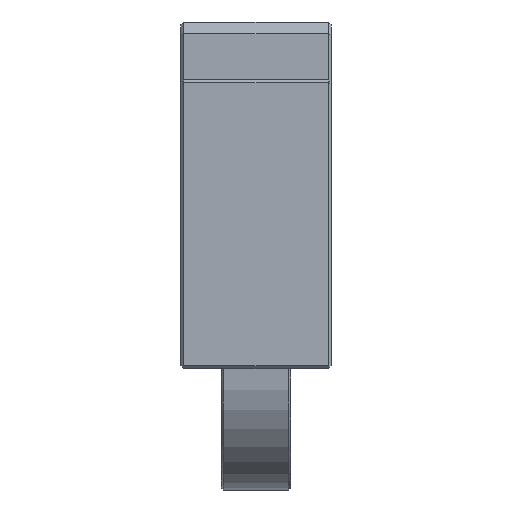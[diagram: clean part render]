
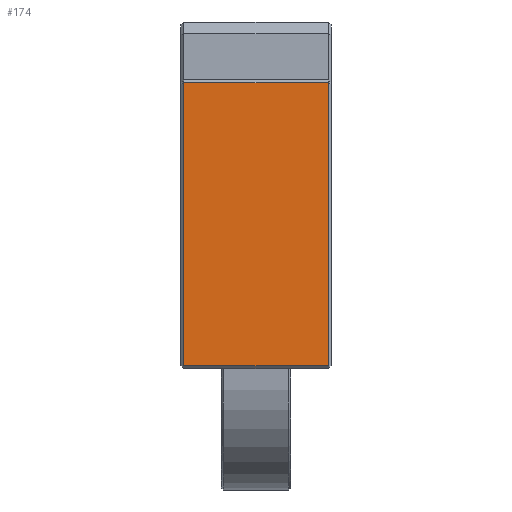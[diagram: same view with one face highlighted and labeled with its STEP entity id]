
A CAD part, left-side view. The second image highlights one B-rep face of the part: STEP entity #174.
In plain terms, the highlighted planar face has unit normal (-1, 0, 0).
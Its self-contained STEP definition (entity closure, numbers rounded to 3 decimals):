
#174 = ADVANCED_FACE( '', ( #584 ), #585, .T. );
#584 = FACE_OUTER_BOUND( '', #1453, .T. );
#585 = PLANE( '', #1454 );
#1453 = EDGE_LOOP( '', ( #2468, #2469, #2470, #2471 ) );
#1454 = AXIS2_PLACEMENT_3D( '', #2472, #2473, #2474 );
#2468 = ORIENTED_EDGE( '', *, *, #5726, .T. );
#2469 = ORIENTED_EDGE( '', *, *, #5727, .T. );
#2470 = ORIENTED_EDGE( '', *, *, #5728, .T. );
#2471 = ORIENTED_EDGE( '', *, *, #5729, .T. );
#2472 = CARTESIAN_POINT( '', ( -44., -13., 0. ) );
#2473 = DIRECTION( '', ( -1., 0., 0. ) );
#2474 = DIRECTION( '', ( 0., 0., 1. ) );
#5726 = EDGE_CURVE( '', #6922, #6923, #6924, .T. );
#5727 = EDGE_CURVE( '', #6923, #6925, #6926, .T. );
#5728 = EDGE_CURVE( '', #6925, #6927, #6928, .T. );
#5729 = EDGE_CURVE( '', #6927, #6922, #6929, .T. );
#6922 = VERTEX_POINT( '', #8743 );
#6923 = VERTEX_POINT( '', #8744 );
#6924 = LINE( '', #8745, #8746 );
#6925 = VERTEX_POINT( '', #8747 );
#6926 = LINE( '', #8748, #8749 );
#6927 = VERTEX_POINT( '', #8750 );
#6928 = LINE( '', #8751, #8752 );
#6929 = LINE( '', #8753, #8754 );
#8743 = CARTESIAN_POINT( '', ( -44., 12.5, 49.5 ) );
#8744 = CARTESIAN_POINT( '', ( -44., 12.5, 0.5 ) );
#8745 = CARTESIAN_POINT( '', ( -44., 12.5, 0. ) );
#8746 = VECTOR( '', #11602, 1000. );
#8747 = CARTESIAN_POINT( '', ( -44., -12.5, 0.5 ) );
#8748 = CARTESIAN_POINT( '', ( -44., -13., 0.5 ) );
#8749 = VECTOR( '', #11603, 1000. );
#8750 = CARTESIAN_POINT( '', ( -44., -12.5, 49.5 ) );
#8751 = CARTESIAN_POINT( '', ( -44., -12.5, 49.5 ) );
#8752 = VECTOR( '', #11604, 1000. );
#8753 = CARTESIAN_POINT( '', ( -44., -13., 49.5 ) );
#8754 = VECTOR( '', #11605, 1000. );
#11602 = DIRECTION( '', ( 0., 0., -1. ) );
#11603 = DIRECTION( '', ( 0., -1., 0. ) );
#11604 = DIRECTION( '', ( 0., 0., 1. ) );
#11605 = DIRECTION( '', ( 0., 1., 0. ) );
